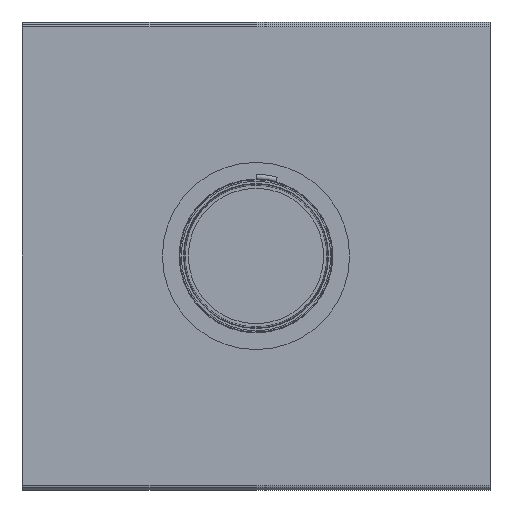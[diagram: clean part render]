
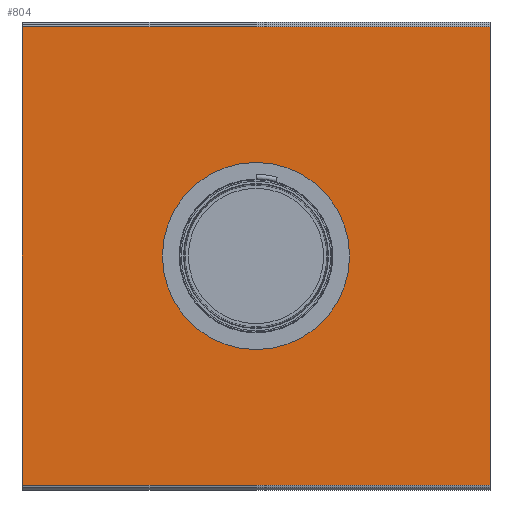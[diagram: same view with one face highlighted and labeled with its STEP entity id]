
A CAD part, front view. The second image highlights one B-rep face of the part: STEP entity #804.
In plain terms, the highlighted planar face has unit normal (0, -1, 0).
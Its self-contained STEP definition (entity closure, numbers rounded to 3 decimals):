
#48=FACE_BOUND('',#212,.T.);
#78=PLANE('',#913);
#129=FACE_OUTER_BOUND('',#211,.T.);
#211=EDGE_LOOP('',(#678,#679,#680,#681));
#212=EDGE_LOOP('',(#682));
#261=LINE('',#1358,#305);
#266=LINE('',#1370,#310);
#267=LINE('',#1374,#311);
#268=LINE('',#1375,#312);
#305=VECTOR('',#1123,10.);
#310=VECTOR('',#1132,10.);
#311=VECTOR('',#1137,10.);
#312=VECTOR('',#1138,10.);
#368=CIRCLE('',#914,204.);
#427=VERTEX_POINT('',#1355);
#428=VERTEX_POINT('',#1357);
#433=VERTEX_POINT('',#1369);
#434=VERTEX_POINT('',#1373);
#435=VERTEX_POINT('',#1376);
#513=EDGE_CURVE('',#428,#427,#261,.T.);
#519=EDGE_CURVE('',#428,#433,#266,.T.);
#521=EDGE_CURVE('',#434,#427,#267,.T.);
#522=EDGE_CURVE('',#434,#433,#268,.T.);
#523=EDGE_CURVE('',#435,#435,#368,.T.);
#678=ORIENTED_EDGE('',*,*,#519,.F.);
#679=ORIENTED_EDGE('',*,*,#513,.T.);
#680=ORIENTED_EDGE('',*,*,#521,.F.);
#681=ORIENTED_EDGE('',*,*,#522,.T.);
#682=ORIENTED_EDGE('',*,*,#523,.T.);
#804=ADVANCED_FACE('',(#129,#48),#78,.T.);
#913=AXIS2_PLACEMENT_3D('',#1372,#1135,#1136);
#914=AXIS2_PLACEMENT_3D('',#1377,#1139,#1140);
#1123=DIRECTION('',(0.,0.,1.));
#1132=DIRECTION('',(-1.,0.,0.));
#1135=DIRECTION('center_axis',(0.,-1.,0.));
#1136=DIRECTION('ref_axis',(0.,0.,-1.));
#1137=DIRECTION('',(1.,0.,0.));
#1138=DIRECTION('',(0.,0.,-1.));
#1139=DIRECTION('center_axis',(0.,1.,0.));
#1140=DIRECTION('ref_axis',(1.,0.,0.));
#1355=CARTESIAN_POINT('',(510.,-510.,500.));
#1357=CARTESIAN_POINT('',(510.,-510.,-500.));
#1358=CARTESIAN_POINT('',(510.,-510.,510.));
#1369=CARTESIAN_POINT('',(-510.,-510.,-500.));
#1370=CARTESIAN_POINT('',(255.,-510.,-500.));
#1372=CARTESIAN_POINT('Origin',(0.,-510.,0.));
#1373=CARTESIAN_POINT('',(-510.,-510.,500.));
#1374=CARTESIAN_POINT('',(-255.,-510.,500.));
#1375=CARTESIAN_POINT('',(-510.,-510.,-510.));
#1376=CARTESIAN_POINT('',(204.,-510.,0.));
#1377=CARTESIAN_POINT('Origin',(0.,-510.,0.));
